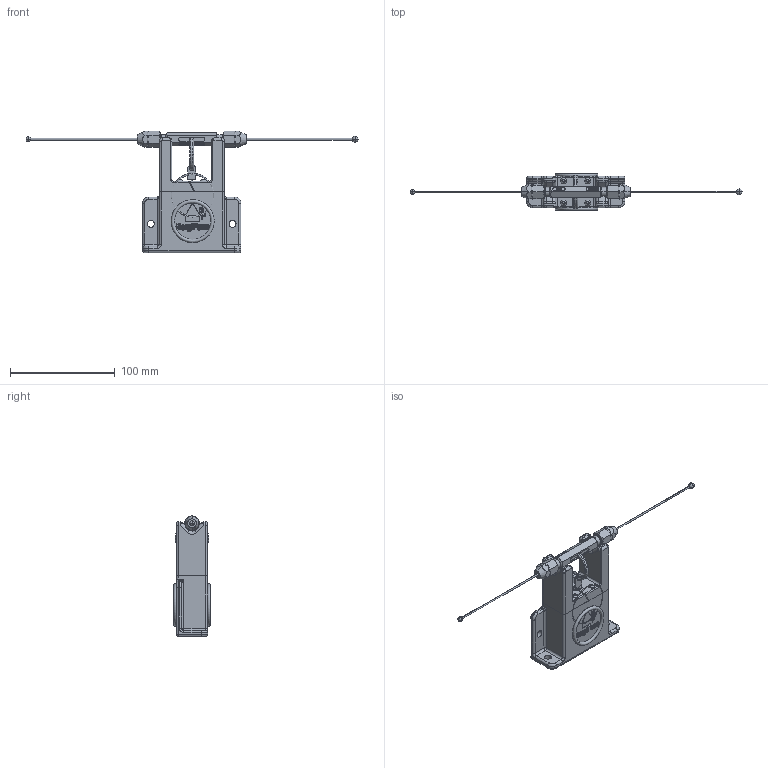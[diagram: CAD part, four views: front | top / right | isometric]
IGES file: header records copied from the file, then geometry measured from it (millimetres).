
Start section: 3D InterOp IGES (Version 25 0 2), Spatial Corp. Copyright (c) 1999-2007.
Global section: file name: aph_v2_kg.igs; native system: Spatial Corp.; preprocessor: 3D InterOp GENERIC/IGES 3.0; author: Noname; organization: Noname; date: 20210124.125540; units: metre
Bounding box: 317 x 35 x 115.75 mm (x, y, z)
Volume: 168182.1 mm3; surface area: 68215.2 mm2
Topology: 22 solids, 22 shells, 1562 faces, 4156 edges, 2670 vertices
Faces by surface type: plane 484, cylinder 349, bspline 274, extrusion 240, torus 115, cone 72, sphere 28
